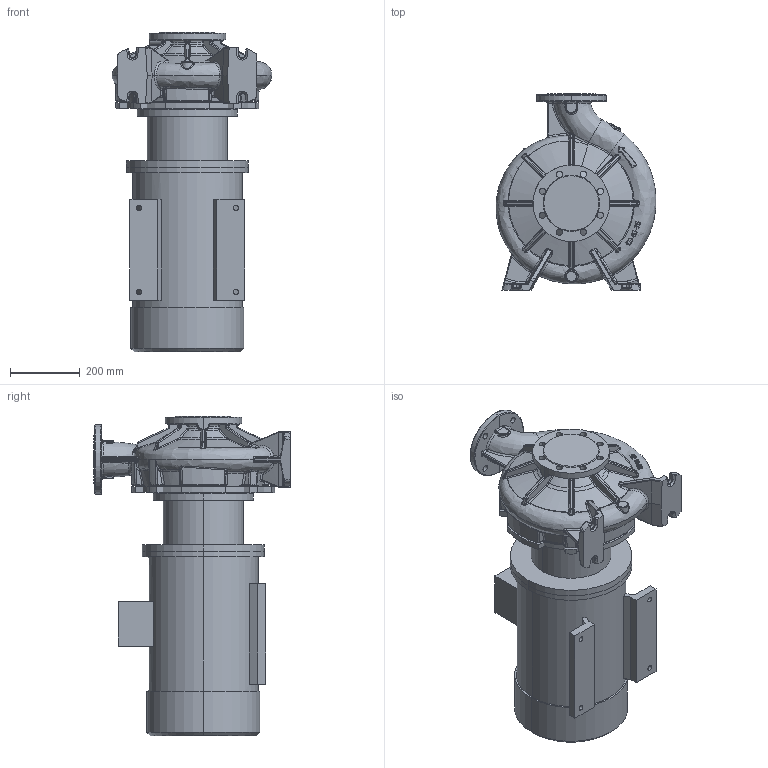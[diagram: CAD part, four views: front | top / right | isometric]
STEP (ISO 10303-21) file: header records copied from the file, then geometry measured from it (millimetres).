
FILE_DESCRIPTION (( 'STEP AP214' ), '1' );
FILE_NAME ('KRM 100-80-315-4-18,5.STEP', '2026-04-20T08:53:20', ( '' ), ( '' ), 'SwSTEP 2.0', 'SolidWorks 2016', '' );
FILE_SCHEMA (( 'AUTOMOTIVE_DESIGN' ));
Length unit declared in the file: millimetre
Products named in the file (1): KRM 100-80-315-4-18,5
Bounding box: 459.7 x 565 x 919.3 mm (x, y, z)
Volume: 79143049.7 mm3; surface area: 2439422.3 mm2
Topology: 12 solids, 12 shells, 1515 faces, 3641 edges, 2154 vertices
Faces by surface type: bspline 708, cylinder 310, plane 296, torus 110, cone 76, sphere 15
Entity records: 119884 total; most frequent: CARTESIAN_POINT 73522, ORIENTED_EDGE 7206, DIRECTION 4725, EDGE_CURVE 3603, VERTEX_POINT 2152, AXIS2_PLACEMENT_3D 1932, EDGE_LOOP 1587, UNCERTAINTY_MEASURE_WITH_UNIT 1529
